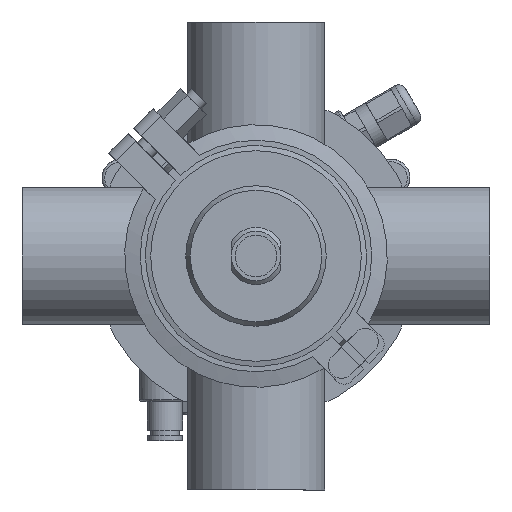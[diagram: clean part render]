
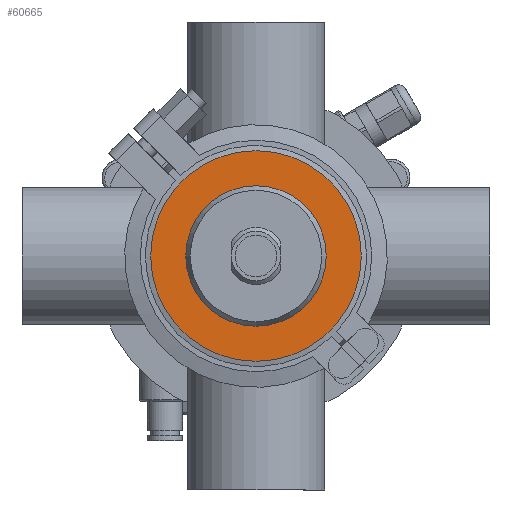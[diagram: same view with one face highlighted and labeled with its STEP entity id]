
A CAD part, front view. The second image highlights one B-rep face of the part: STEP entity #60665.
In plain terms, the highlighted planar face has unit normal (0, -1, 0).
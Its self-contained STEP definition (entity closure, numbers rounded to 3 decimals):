
#2094 = FACE_BOUND ( 'NONE', #10436, .T. ) ;
#4224 = DIRECTION ( 'NONE',  ( 0., 0., 1. ) ) ;
#6200 = CARTESIAN_POINT ( 'NONE',  ( -40.5, -13., 0. ) ) ;
#8380 = AXIS2_PLACEMENT_3D ( 'NONE', #26732, #23515, #4224 ) ;
#8576 = DIRECTION ( 'NONE',  ( 0., 0., 1. ) ) ;
#10436 = EDGE_LOOP ( 'NONE', ( #19518 ) ) ;
#12396 = VERTEX_POINT ( 'NONE', #50862 ) ;
#17203 = CARTESIAN_POINT ( 'NONE',  ( 0., -13., 40.5 ) ) ;
#18342 = DIRECTION ( 'NONE',  ( 0., 1., 0. ) ) ;
#19518 = ORIENTED_EDGE ( 'NONE', *, *, #35814, .T. ) ;
#21674 = AXIS2_PLACEMENT_3D ( 'NONE', #24053, #18342, #8576 ) ;
#23515 = DIRECTION ( 'NONE',  ( 0., 1., 0. ) ) ;
#24053 = CARTESIAN_POINT ( 'NONE',  ( 0., -13., 0. ) ) ;
#25501 = DIRECTION ( 'NONE',  ( 0., -1., 0. ) ) ;
#26732 = CARTESIAN_POINT ( 'NONE',  ( 0., -13., 0. ) ) ;
#27587 = CIRCLE ( 'NONE', #8380, 40.5 ) ;
#27934 = AXIS2_PLACEMENT_3D ( 'NONE', #6200, #25501, #30927 ) ;
#29111 = ORIENTED_EDGE ( 'NONE', *, *, #57632, .F. ) ;
#30927 = DIRECTION ( 'NONE',  ( 0., 0., -1. ) ) ;
#35085 = PLANE ( 'NONE',  #27934 ) ;
#35814 = EDGE_CURVE ( 'NONE', #12396, #12396, #47080, .T. ) ;
#40804 = FACE_OUTER_BOUND ( 'NONE', #48797, .T. ) ;
#47080 = CIRCLE ( 'NONE', #21674, 27. ) ;
#48797 = EDGE_LOOP ( 'NONE', ( #29111 ) ) ;
#50001 = VERTEX_POINT ( 'NONE', #17203 ) ;
#50862 = CARTESIAN_POINT ( 'NONE',  ( 0., -13., 27. ) ) ;
#57632 = EDGE_CURVE ( 'NONE', #50001, #50001, #27587, .T. ) ;
#60665 = ADVANCED_FACE ( 'NONE', ( #2094, #40804 ), #35085, .T. ) ;
